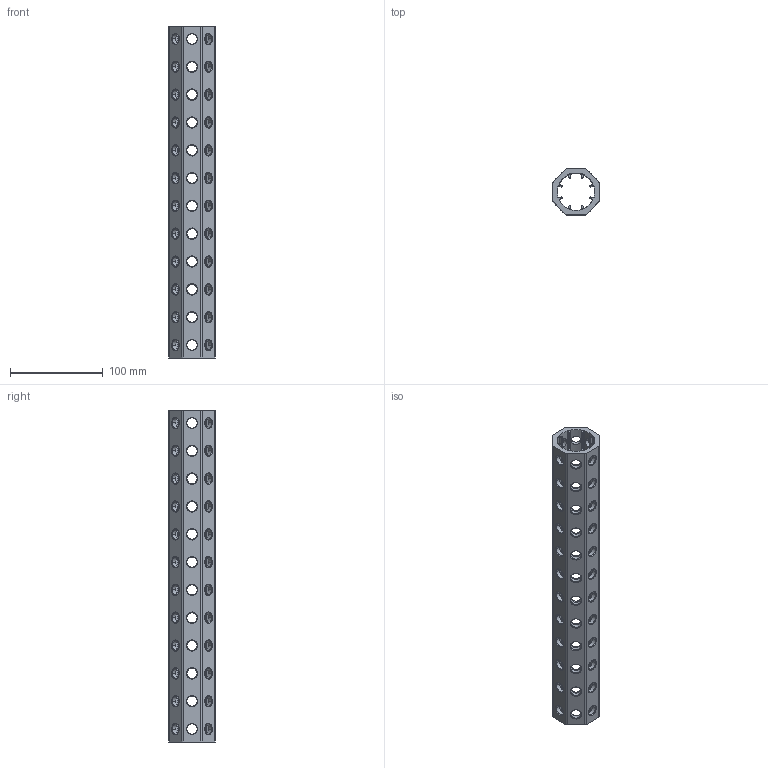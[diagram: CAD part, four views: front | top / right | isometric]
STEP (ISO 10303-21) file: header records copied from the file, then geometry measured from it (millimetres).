
FILE_DESCRIPTION(('CATIA V5 STEP Exchange'),'2;1');
FILE_NAME('U:\Room\唐宝山\EGT002\46-01-010241-01-EGT002-358.stp','2021-08-24T00:59:31+00:00',('none'),('none'),'CATIA Version 5 Release 21 GA (IN-10)','CATIA V5 STEP AP203','none');
FILE_SCHEMA(('CONFIG_CONTROL_DESIGN'));
Length unit declared in the file: millimetre
Products named in the file (1): 46-01-010241-01-EGT002-358
Bounding box: 50 x 50 x 358 mm (x, y, z)
Volume: 254861.1 mm3; surface area: 124349.1 mm2
Topology: 1 solids, 1 shells, 564 faces, 1566 edges, 980 vertices
Faces by surface type: cone 288, cylinder 250, plane 26
Entity records: 23582 total; most frequent: CARTESIAN_POINT 9813, ORIENTED_EDGE 3132, DIRECTION 2222, EDGE_CURVE 1566, AXIS2_PLACEMENT_3D 1025, VERTEX_POINT 980, EDGE_LOOP 734, VECTOR 634
